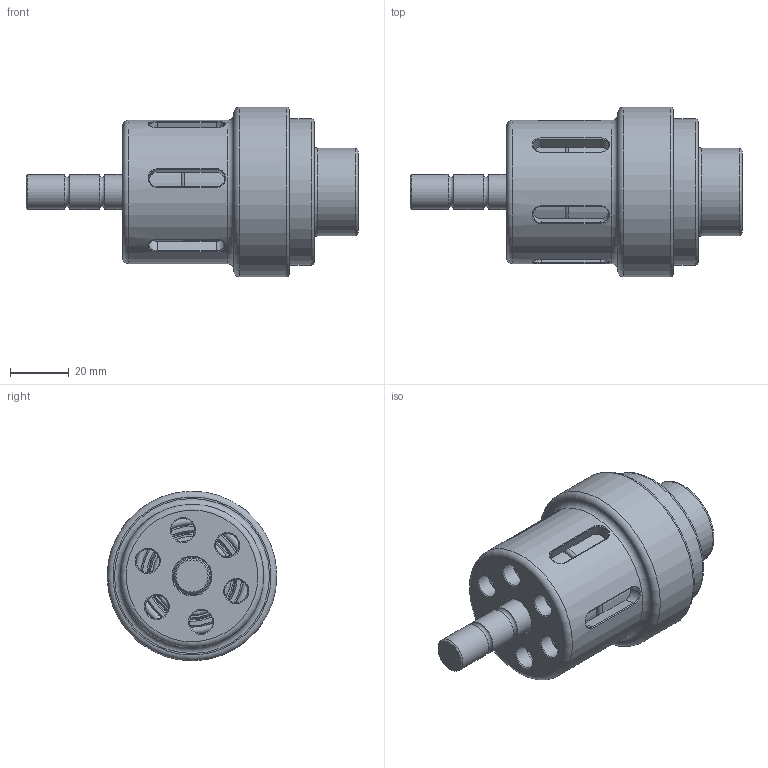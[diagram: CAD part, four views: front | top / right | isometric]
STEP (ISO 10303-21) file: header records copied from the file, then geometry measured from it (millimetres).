
FILE_DESCRIPTION(/* description */ (''),/* implementation_level */ '2;1');
FILE_NAME(/* name */ 'C:\Users\roarho\Desktop\STP\IKM-1044880 rev-.stp',/* time_stamp */ '2019-11-27T16:18:18+01:00',/* author */ ('RH'),/* organization */ ('IKM Technique AS'),/* preprocessor_version */ 'ST-DEVELOPER v17',/* originating_system */ 'Autodesk Inventor 2018',/* authorisation */ '');
FILE_SCHEMA (('AUTOMOTIVE_DESIGN { 1 0 10303 214 3 1 1 }'));
Length unit declared in the file: millimetre
Products named in the file (1): IKM-1044880
Bounding box: 113.5 x 57.99 x 57.99 mm (x, y, z)
Surface area: 56794.7 mm2 (no closed solid volume)
Topology: 0 solids, 6 shells, 144 faces, 417 edges, 290 vertices
Faces by surface type: cylinder 43, plane 37, torus 25, bspline 25, cone 14
Full cylindrical faces by diameter (mm): 8 x6, 12 x3, 13 x1, 18.631 x1, 21 x1, 29.5 x1, 30 x2, 35 x2, 36 x1, 39 x1, 40 x3, 46 x1, 48 x1, 49 x1, 50 x1, 51 x1, 53.3 x1, 54 x2, 58 x1
Entity records: 6809 total; most frequent: CARTESIAN_POINT 2724, ORIENTED_EDGE 834, DIRECTION 813, EDGE_CURVE 417, AXIS2_PLACEMENT_3D 365, VERTEX_POINT 290, CIRCLE 245, EDGE_LOOP 177
